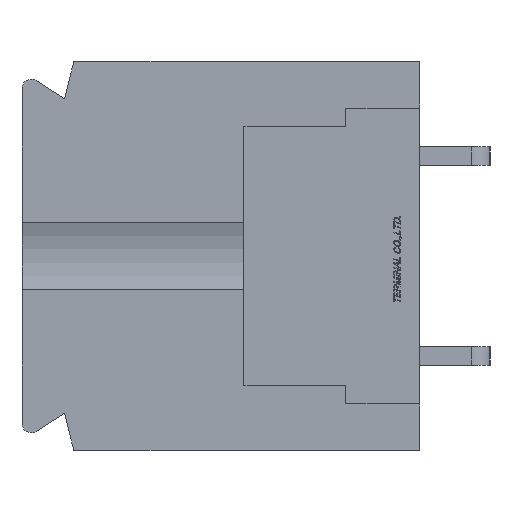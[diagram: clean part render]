
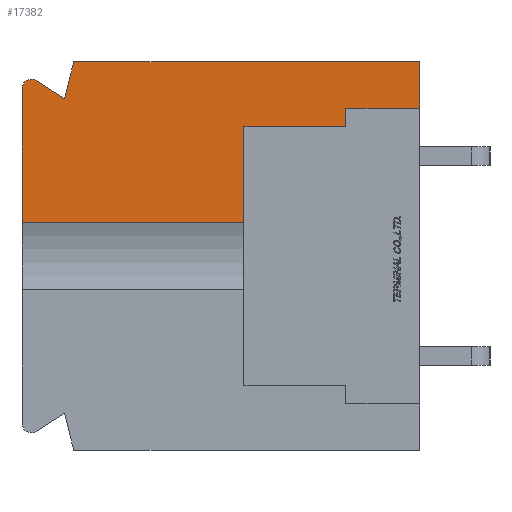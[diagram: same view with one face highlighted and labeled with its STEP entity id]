
A CAD part, left-side view. The second image highlights one B-rep face of the part: STEP entity #17382.
In plain terms, the highlighted planar face has unit normal (-1, 0, 0).
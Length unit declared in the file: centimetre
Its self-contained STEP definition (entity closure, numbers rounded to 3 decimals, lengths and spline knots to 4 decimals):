
#526=CIRCLE('',#29444,0.05);
#945=VECTOR('',#19340,1.);
#946=VECTOR('',#19341,1.);
#947=VECTOR('',#19342,1.);
#948=VECTOR('',#19343,1.);
#949=VECTOR('',#19344,1.);
#950=VECTOR('',#19345,1.);
#951=VECTOR('',#19346,1.);
#952=VECTOR('',#19347,1.);
#953=VECTOR('',#19350,1.);
#954=VECTOR('',#19351,1.);
#3040=LINE('',#23157,#945);
#3041=LINE('',#23160,#946);
#3042=LINE('',#23162,#947);
#3043=LINE('',#23164,#948);
#3044=LINE('',#23166,#949);
#3045=LINE('',#23168,#950);
#3046=LINE('',#23170,#951);
#3047=LINE('',#23172,#952);
#3048=LINE('',#23176,#953);
#3049=LINE('',#23178,#954);
#5148=VERTEX_POINT('',#23158);
#5149=VERTEX_POINT('',#23159);
#5150=VERTEX_POINT('',#23161);
#5151=VERTEX_POINT('',#23163);
#5152=VERTEX_POINT('',#23165);
#5153=VERTEX_POINT('',#23167);
#5154=VERTEX_POINT('',#23169);
#5155=VERTEX_POINT('',#23171);
#5156=VERTEX_POINT('',#23173);
#5157=VERTEX_POINT('',#23175);
#5158=VERTEX_POINT('',#23177);
#7083=EDGE_CURVE('',#5148,#5149,#3040,.T.);
#7084=EDGE_CURVE('',#5150,#5148,#3041,.T.);
#7085=EDGE_CURVE('',#5151,#5150,#3042,.T.);
#7086=EDGE_CURVE('',#5152,#5151,#3043,.T.);
#7087=EDGE_CURVE('',#5153,#5152,#3044,.T.);
#7088=EDGE_CURVE('',#5154,#5153,#3045,.T.);
#7089=EDGE_CURVE('',#5155,#5154,#3046,.T.);
#7090=EDGE_CURVE('',#5156,#5155,#3047,.T.);
#7091=EDGE_CURVE('',#5157,#5156,#526,.T.);
#7092=EDGE_CURVE('',#5158,#5157,#3048,.T.);
#7093=EDGE_CURVE('',#5158,#5149,#3049,.T.);
#9899=ORIENTED_EDGE('',*,*,#7083,.F.);
#9900=ORIENTED_EDGE('',*,*,#7084,.F.);
#9901=ORIENTED_EDGE('',*,*,#7085,.F.);
#9902=ORIENTED_EDGE('',*,*,#7086,.F.);
#9903=ORIENTED_EDGE('',*,*,#7087,.F.);
#9904=ORIENTED_EDGE('',*,*,#7088,.F.);
#9905=ORIENTED_EDGE('',*,*,#7089,.F.);
#9906=ORIENTED_EDGE('',*,*,#7090,.F.);
#9907=ORIENTED_EDGE('',*,*,#7091,.F.);
#9908=ORIENTED_EDGE('',*,*,#7092,.F.);
#9909=ORIENTED_EDGE('',*,*,#7093,.T.);
#15148=EDGE_LOOP('',(#9899,#9900,#9901,#9902,#9903,#9904,#9905,#9906,#9907,
#9908,#9909));
#16270=FACE_BOUND('',#15148,.T.);
#17382=ADVANCED_FACE('',(#16270),#18385,.F.);
#18385=PLANE('',#29443);
#19339=DIRECTION('',(1.,0.,0.));
#19340=DIRECTION('',(0.,0.,-1.));
#19341=DIRECTION('',(0.,1.,0.));
#19342=DIRECTION('',(0.,0.,-1.));
#19343=DIRECTION('',(0.,1.,0.));
#19344=DIRECTION('',(0.,0.,-1.));
#19345=DIRECTION('',(0.,-1.,0.));
#19346=DIRECTION('',(0.,-0.243,0.97));
#19347=DIRECTION('',(0.,-0.844,-0.536));
#19348=DIRECTION('',(1.,0.,0.));
#19349=DIRECTION('',(0.,0.,-0.05));
#19350=DIRECTION('',(0.,0.,1.));
#19351=DIRECTION('',(0.,-1.,0.));
#23156=CARTESIAN_POINT('',(-1.1,1.082,0.));
#23157=CARTESIAN_POINT('',(-1.1,0.95,-0.7));
#23158=CARTESIAN_POINT('',(-1.1,0.95,0.7));
#23159=CARTESIAN_POINT('',(-1.1,0.95,0.1809));
#23160=CARTESIAN_POINT('',(-1.1,0.95,0.7));
#23161=CARTESIAN_POINT('',(-1.1,0.4,0.7));
#23162=CARTESIAN_POINT('',(-1.1,0.4,0.7));
#23163=CARTESIAN_POINT('',(-1.1,0.4,0.8));
#23164=CARTESIAN_POINT('',(-1.1,0.4,0.8));
#23165=CARTESIAN_POINT('',(-1.1,0.,0.8));
#23166=CARTESIAN_POINT('',(-1.1,0.,1.05));
#23167=CARTESIAN_POINT('',(-1.1,0.,1.05));
#23168=CARTESIAN_POINT('',(-1.1,1.87,1.05));
#23169=CARTESIAN_POINT('',(-1.1,1.87,1.05));
#23170=CARTESIAN_POINT('',(-1.1,1.92,0.85));
#23171=CARTESIAN_POINT('',(-1.1,1.92,0.85));
#23172=CARTESIAN_POINT('',(-1.1,2.0742,0.9478));
#23173=CARTESIAN_POINT('',(-1.1,2.0742,0.9478));
#23174=CARTESIAN_POINT('',(-1.1,2.1,0.905));
#23175=CARTESIAN_POINT('',(-1.1,2.15,0.905));
#23176=CARTESIAN_POINT('',(-1.1,2.15,-0.905));
#23177=CARTESIAN_POINT('',(-1.1,2.15,0.1809));
#23178=CARTESIAN_POINT('',(-1.1,1.55,0.1809));
#29443=AXIS2_PLACEMENT_3D('',#23156,#19339,$);
#29444=AXIS2_PLACEMENT_3D('',#23174,#19348,#19349);
